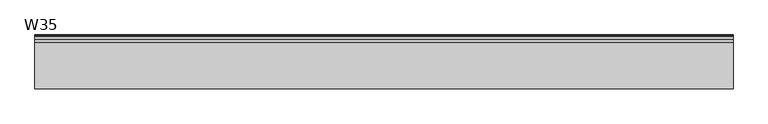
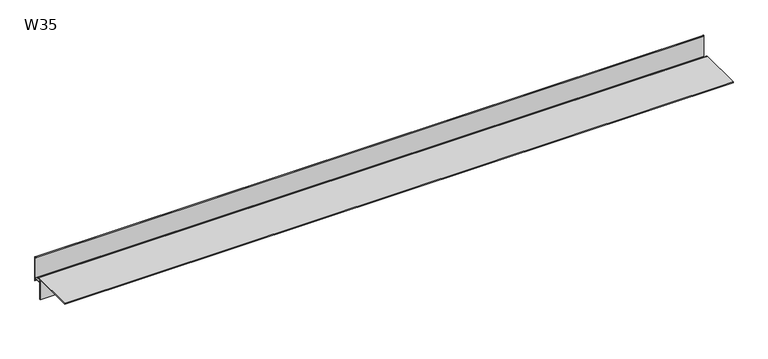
"""IFC4 building model written with IfcOpenShell, lengths in millimetres: proxy geometry, W35 Profil okapowy prosty z rynną : W35."""

from ifc_helpers import new_model, si_unit, point, frame, frame_2d, origin, place, context, project, spatial, polyline, circle_curve, trimmed, segment, composite_curve, outline, extrude, source, transform, mapped, element, save


def w35_d833f82c(model_context):
    return source(origin(), model_context, "Body", "SweptSolid", [
        extrude(outline(composite_curve([segment(polyline([(6.45625, -36.4912009), (-73.5437501, -36.4912009), (-73.5437501, -34.9912009), (10.9562499, -34.9912009)]), True, "CONTINUOUS"), segment(trimmed(circle_curve(frame_2d((10.9605833, -38.9787852)), 3.9875866), [point((10.9562499, -34.9912009))], [point((14.8884421, -38.291201))], False, "CARTESIAN"), True, "CONTINUOUS"), segment(polyline([(14.8884421, -38.291201), (13.3562498, -38.291201)]), True, "CONTINUOUS"), segment(trimmed(circle_curve(frame_2d((10.9562498, -38.9912009)), 2.5), [point((13.3562498, -38.291201))], [point((10.9562498, -36.4912009))], True, "CARTESIAN"), True, "CONTINUOUS"), segment(polyline([(10.9562498, -36.4912009), (7.9562498, -36.4912009), (7.9562498, -41.7912008), (22.5562497, -41.7912008), (22.5562497, -2.2682013)]), True, "CONTINUOUS"), segment(trimmed(circle_curve(frame_2d((21.756241, -2.2682013)), 0.8000089), [point((22.5562497, -2.2682013))], [point((21.9232762, -1.4858246))], True, "CARTESIAN"), True, "CONTINUOUS"), segment(polyline([(21.9232762, -1.4858246), (22.2404603, -0.0001657)]), True, "CONTINUOUS"), segment(trimmed(circle_curve(frame_2d((21.7562505, -2.248618)), 2.2999994), [point((22.2404603, -0.0001657))], [point((24.0562499, -2.248618))], False, "CARTESIAN"), True, "CONTINUOUS"), segment(polyline([(24.0562499, -2.248618), (24.0562499, -48.6447543), (22.5562498, -47.1447542), (22.5562498, -43.2912011), (7.9562498, -43.2912011), (7.9562498, -76.1912009), (6.4562498, -76.1912009), (6.45625, -36.4912009)]), True, "CONTINUOUS")], self_intersect=False)), frame((0.0, 0.0, 0.0), z_axis=(1.0, 0.0, 0.0), x_axis=(0.0, 1.0, 0.0)), (0.0, 0.0, 1.0), 1265.4500928),
    ])


if __name__ == "__main__":
    model = new_model("IFC4")
    model_context = context("Model", 3, world=origin())
    ifc_project = project(units=[si_unit("LENGTHUNIT", "METRE", prefix="MILLI")], contexts=[model_context])
    site = spatial("IfcSite", under=ifc_project)
    building = spatial("IfcBuilding", under=site)
    placement = place(None, origin())
    w35_shape = w35_d833f82c(model_context)
    element("IfcBuildingElementProxy", 1, Name="W35 Profil okapowy prosty z rynną : W35", ObjectType="W35 Profil okapowy prosty z rynną : W35", at=placement, inside=building, context=model_context, shape_type="MappedRepresentation", body=[
        mapped(w35_shape, transform((0.0, 0.0, 0.0), x_axis=(1.0, 0.0, 0.0), y_axis=(0.0, 1.0, 0.0), z_axis=(0.0, 0.0, 1.0))),
    ])
    save(model, "model.ifc")
